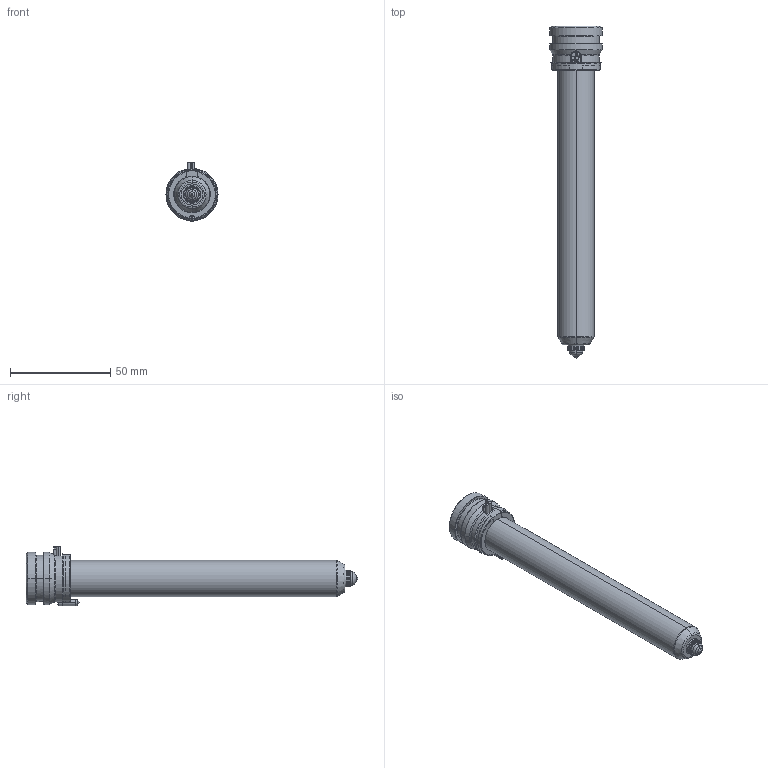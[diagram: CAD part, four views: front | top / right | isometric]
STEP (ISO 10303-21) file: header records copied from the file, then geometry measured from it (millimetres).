
FILE_DESCRIPTION((''),'2;1');
FILE_NAME('TH18147_5-A-1B15-PK-JG','2023-12-14T',('umhib'),('Thermoplay S.p.A.'),'PRO/ENGINEER BY PARAMETRIC TECHNOLOGY CORPORATION, 2017170','PRO/ENGINEER BY PARAMETRIC TECHNOLOGY CORPORATION, 2017170','');
FILE_SCHEMA(('CONFIG_CONTROL_DESIGN'));
Length unit declared in the file: millimetre
Products named in the file (1): TH18147_5-A-1B15-PK-JG
Bounding box: 26 x 165.5 x 29.5 mm (x, y, z)
Volume: 33136.1 mm3; surface area: 24117.1 mm2
Topology: 1 solids, 2 shells, 398 faces, 1036 edges, 643 vertices
Faces by surface type: cylinder 151, plane 85, cone 68, torus 56, bspline 24, sphere 12, extrusion 2
Entity records: 18086 total; most frequent: CARTESIAN_POINT 6121, ORIENTED_EDGE 2048, DIRECTION 2031, EDGE_CURVE 1026, AXIS2_PLACEMENT_3D 815, VERTEX_POINT 643, CIRCLE 442, EDGE_LOOP 418
